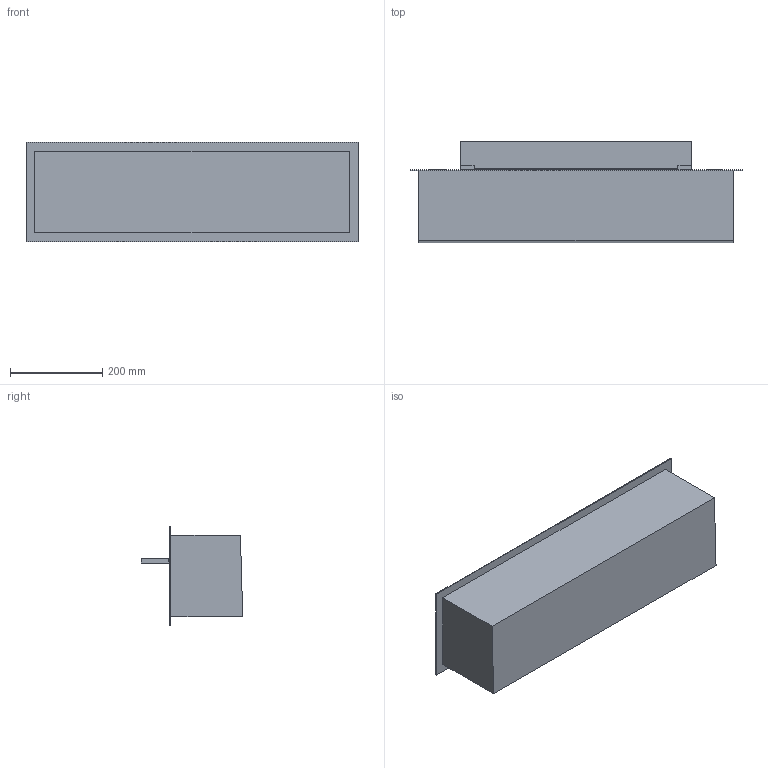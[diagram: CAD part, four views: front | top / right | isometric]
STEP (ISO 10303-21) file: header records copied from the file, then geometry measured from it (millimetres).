
FILE_DESCRIPTION (( 'STEP AP203' ), '1' );
FILE_NAME ('Denver F3 720.STEP', '2024-03-13T09:17:02', ( '' ), ( '' ), 'SwSTEP 2.0', 'SolidWorks 2023', '' );
FILE_SCHEMA (( 'CONFIG_CONTROL_DESIGN' ));
Length unit declared in the file: millimetre
Products named in the file (1): Denver F3 720
Bounding box: 720 x 220 x 215 mm (x, y, z)
Volume: 19408719 mm3; surface area: 915001.2 mm2
Topology: 8 solids, 8 shells, 68 faces, 156 edges, 104 vertices
Faces by surface type: plane 68
Entity records: 1955 total; most frequent: CARTESIAN_POINT 329, ORIENTED_EDGE 312, DIRECTION 294, EDGE_CURVE 156, LINE 156, VECTOR 156, VERTEX_POINT 104, EDGE_LOOP 74
